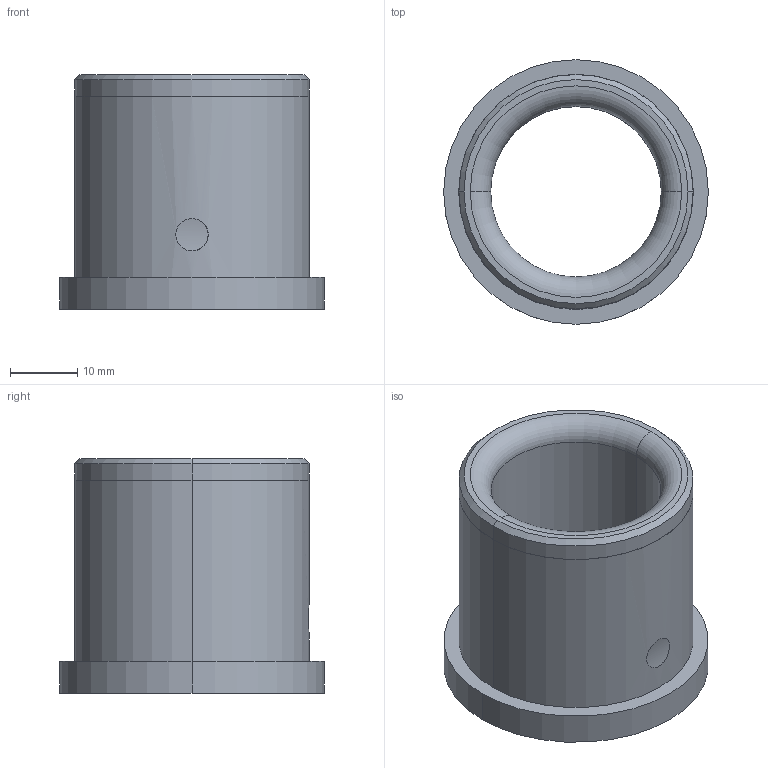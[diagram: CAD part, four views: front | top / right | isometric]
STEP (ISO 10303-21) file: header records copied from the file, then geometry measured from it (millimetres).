
FILE_DESCRIPTION (( 'STEP AP214' ), '1' );
FILE_NAME ('S1000-11G.step', '2024-07-23T19:18:21', ( '' ), ( '' ), 'SwSTEP 2.0', 'SolidWorks 2017', '' );
FILE_SCHEMA (( 'AUTOMOTIVE_DESIGN' ));
Length unit declared in the file: inch
Products named in the file (1): S1000-11G
Bounding box: 39.42 x 39.42 x 34.92 mm (x, y, z)
Volume: 16699 mm3; surface area: 7893.4 mm2
Topology: 1 solids, 1 shells, 21 faces, 42 edges, 26 vertices
Faces by surface type: cylinder 9, cone 4, plane 4, bspline 2, torus 2
Entity records: 825 total; most frequent: CARTESIAN_POINT 294, DIRECTION 102, ORIENTED_EDGE 84, AXIS2_PLACEMENT_3D 44, EDGE_CURVE 42, EDGE_LOOP 26, VERTEX_POINT 26, CIRCLE 24
